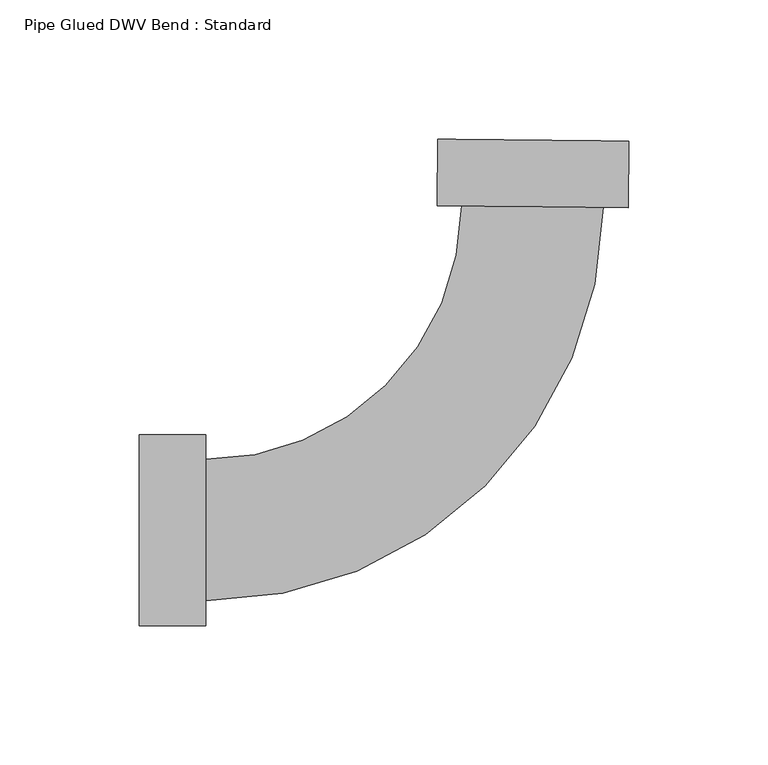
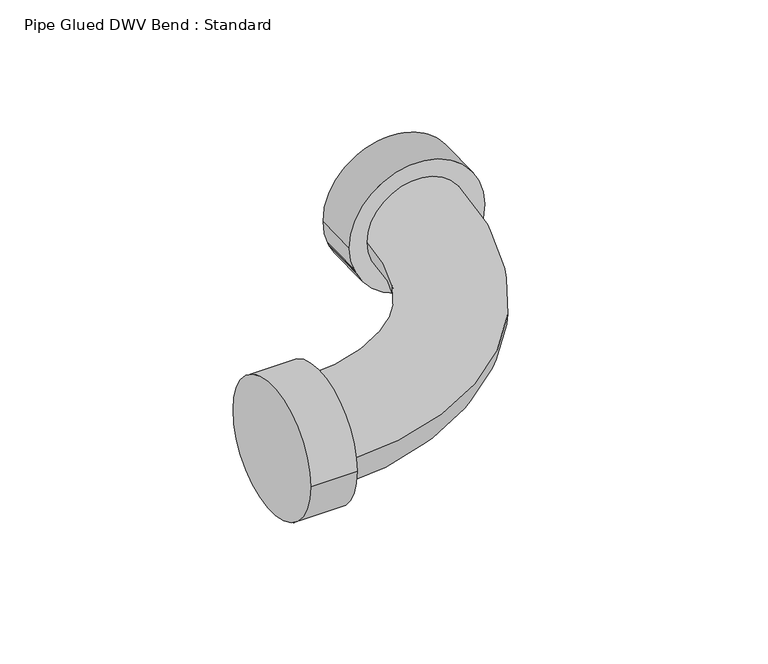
"""IFC4 building model written with IfcOpenShell, lengths in millimetres: pipe fitting geometry, Pipe Glued DWV Bend : Standard."""

from ifc_helpers import new_model, si_unit, point, frame, origin, origin_2d, place, context, project, spatial, circle_curve, ellipse_curve, trimmed, segment, composite_curve, outline, extrude, source, transform, mapped, element, save
from ifc_brep_helpers import plane_surface, cylinder_surface, revolved_surface, advanced_brep


def pipe_glued_dwv_bend_standard_c24f7a1e(model_context):
    return source(origin(), model_context, "Body", "SolidModel", [
        advanced_brep(
        [(-116.2623336, -25.4, 0.0), (-116.2623336, 25.4, 0.0), (26.604975, 115.9925236, 0.0), (-24.1922903, 116.5196263, 0.0)],
        [
            (0, 1, circle_curve(frame((-116.2623336, 0.0, 0.0), z_axis=(-1.0, 0.0, 0.0), x_axis=(0.0, 1.0, 0.0)), 25.4)),
            (1, 0, circle_curve(frame((-116.2623336, 0.0, 0.0), z_axis=(-1.0, 0.0, 0.0), x_axis=(0.0, 1.0, 0.0)), 25.4)),
            (2, 3, circle_curve(frame((1.2063424, 116.2560749, 0.0), z_axis=(0.010376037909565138, 0.9999461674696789, 0.0), x_axis=(-0.9999461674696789, 0.010376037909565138, 0.0)), 25.4)),
            (3, 2, circle_curve(frame((1.2063424, 116.2560749, 0.0), z_axis=(0.010376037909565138, 0.9999461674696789, 0.0), x_axis=(-0.9999461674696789, 0.010376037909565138, 0.0)), 25.4)),
            (3, 1, circle_curve(frame((-116.2623336, 117.475, 0.0), z_axis=(0.0, 0.0, -1.0), x_axis=(0.0, -1.0, 0.0)), 92.075)),
            (0, 2, circle_curve(frame((-116.2623336, 117.475, 0.0), z_axis=(0.0, 0.0, 1.0), x_axis=(0.0, -1.0, 0.0)), 142.875)),
        ],
        [
            plane_surface(frame((-116.2623336, 0.0, 0.0), z_axis=(-1.0, 0.0, 0.0), x_axis=(0.0, 0.0, 1.0))),
            plane_surface(frame((1.2063424, 116.2560749, 0.0), z_axis=(0.010376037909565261, 0.999946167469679, 0.0), x_axis=(0.0, 0.0, 1.0))),
            revolved_surface(trimmed(ellipse_curve(frame((-116.2623336, 0.0, 0.0), z_axis=(-1.0, 0.0, 0.0), x_axis=(0.0, 1.0, 0.0)), 25.4, 25.4), [point((-116.2623336, -25.4, 0.0))], [point((-116.2623336, 25.4, 0.0))], True, "CARTESIAN"), (-116.2623336, 117.475, 0.0), (0.0, 0.0, 1.0)),
            revolved_surface(trimmed(ellipse_curve(frame((-116.2623336, 0.0, 0.0), z_axis=(-1.0, 0.0, 0.0), x_axis=(0.0, 1.0, 0.0)), 25.4, 25.4), [point((-116.2623336, 25.4, 0.0))], [point((-116.2623336, -25.4, 0.0))], True, "CARTESIAN"), (-116.2623336, 117.475, 0.0), (0.0, 0.0, 1.0)),
        ],
        [
            (0, [[1, 2]]),
            (1, [[3, 4]]),
            (2, [[5, -1, 6, -4]]),
            (3, [[-6, -2, -5, -3]]),
        ],
    ),
        extrude(outline(composite_curve([segment(trimmed(circle_curve(origin_2d(), 34.3154), [point((-34.3154, 0.0))], [point((34.3154, 0.0))], False, "CARTESIAN"), True, "CONTINUOUS"), segment(trimmed(circle_curve(origin_2d(), 34.3154), [point((34.3154, 0.0))], [point((-34.3154, 0.0))], False, "CARTESIAN"), True, "CONTINUOUS")], self_intersect=False)), frame((-140.0748336, 0.0, 0.0), z_axis=(1.0, 0.0, 0.0), x_axis=(0.0, 1.0, 0.0)), (0.0, 0.0, 1.0), 23.8125),
        extrude(outline(composite_curve([segment(trimmed(circle_curve(origin_2d(), 34.3154), [point((0.0, -34.3154))], [point((0.0, 34.3154))], False, "CARTESIAN"), True, "CONTINUOUS"), segment(trimmed(circle_curve(origin_2d(), 34.3154), [point((0.0, 34.3154))], [point((0.0, -34.3154))], False, "CARTESIAN"), True, "CONTINUOUS")], self_intersect=False)), frame((1.2063424, 116.2560749, 0.0), z_axis=(0.010376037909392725, 0.9999461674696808, 0.0), x_axis=(0.0, 0.0, 1.0)), (0.0, 0.0, 1.0), 23.8125),
        advanced_brep(
        [(-140.0748336, -34.3154, 0.0), (-140.0748336, 34.3154, 0.0), (-116.2623336, -34.3154, 0.0), (-116.2623336, 34.3154, 0.0), (-116.2623336, -25.4, 0.0), (-116.2623336, 25.4, 0.0), (-24.1922903, 116.5196263, 0.0), (26.604975, 115.9925236, 0.0), (35.5198951, 115.9000171, 0.0), (-33.1072103, 116.6121328, 0.0), (35.7669745, 139.7112352, 0.0), (-32.8601309, 140.423351, 0.0)],
        [
            (0, 1, circle_curve(frame((-140.0748336, 0.0, 0.0), z_axis=(-1.0, 0.0, 0.0), x_axis=(0.0, 1.0, 0.0)), 34.3154)),
            (1, 0, circle_curve(frame((-140.0748336, 0.0, 0.0), z_axis=(-1.0, 0.0, 0.0), x_axis=(0.0, 1.0, 0.0)), 34.3154)),
            (2, 3, circle_curve(frame((-116.2623336, 0.0, 0.0), z_axis=(1.0, 0.0, 0.0), x_axis=(0.0, 1.0, 0.0)), 34.3154)),
            (3, 2, circle_curve(frame((-116.2623336, 0.0, 0.0), z_axis=(1.0, 0.0, 0.0), x_axis=(0.0, 1.0, 0.0)), 34.3154)),
            (4, 5, circle_curve(frame((-116.2623336, 0.0, 0.0), z_axis=(-1.0, 0.0, 0.0), x_axis=(0.0, 1.0, 0.0)), 25.4)),
            (5, 4, circle_curve(frame((-116.2623336, 0.0, 0.0), z_axis=(-1.0, 0.0, 0.0), x_axis=(0.0, 1.0, 0.0)), 25.4)),
            (0, 2),
            (3, 1),
            (6, 5, circle_curve(frame((-116.2623336, 117.475, 0.0), z_axis=(0.0, 0.0, -1.0), x_axis=(0.0, -1.0, 0.0)), 92.075)),
            (4, 7, circle_curve(frame((-116.2623336, 117.475, 0.0), z_axis=(0.0, 0.0, 1.0), x_axis=(0.0, -1.0, 0.0)), 142.875)),
            (7, 6, circle_curve(frame((1.2063424, 116.2560749, 0.0), z_axis=(-0.010376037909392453, -0.9999461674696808, 0.0), x_axis=(-0.9999461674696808, 0.010376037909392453, 0.0)), 25.4)),
            (6, 7, circle_curve(frame((1.2063424, 116.2560749, 0.0), z_axis=(-0.010376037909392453, -0.9999461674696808, 0.0), x_axis=(-0.9999461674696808, 0.010376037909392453, 0.0)), 25.4)),
            (8, 9, circle_curve(frame((1.2063424, 116.2560749, 0.0), z_axis=(-0.010376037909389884, -0.9999461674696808, 0.0), x_axis=(-0.9999461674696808, 0.010376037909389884, 0.0)), 34.3154)),
            (9, 8, circle_curve(frame((1.2063424, 116.2560749, 0.0), z_axis=(-0.010376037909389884, -0.9999461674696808, 0.0), x_axis=(-0.9999461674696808, 0.010376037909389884, 0.0)), 34.3154)),
            (10, 11, circle_curve(frame((1.4534218, 140.0672931, 0.0), z_axis=(0.010376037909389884, 0.9999461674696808, 0.0), x_axis=(-0.9999461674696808, 0.010376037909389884, 0.0)), 34.3154)),
            (11, 10, circle_curve(frame((1.4534218, 140.0672931, 0.0), z_axis=(0.010376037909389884, 0.9999461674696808, 0.0), x_axis=(-0.9999461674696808, 0.010376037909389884, 0.0)), 34.3154)),
            (8, 10),
            (11, 9),
        ],
        [
            plane_surface(frame((-140.0748336, 0.0, 0.0), z_axis=(-1.0, 0.0, 0.0), x_axis=(0.0, 0.0, 1.0))),
            plane_surface(frame((-116.2623336, 0.0, 0.0), z_axis=(1.0, 0.0, 0.0), x_axis=(0.0, 0.0, 1.0))),
            cylinder_surface(frame((-140.0748336, 0.0, 0.0), z_axis=(-1.0, 0.0, 0.0), x_axis=(0.0, 1.0, 0.0)), 34.3154),
            revolved_surface(trimmed(ellipse_curve(frame((-116.2623336, 0.0, 0.0), z_axis=(-1.0, 0.0, 0.0), x_axis=(0.0, 1.0, 0.0)), 25.4, 25.4), [point((-116.2623336, -25.4, 0.0))], [point((-116.2623336, 25.4, 0.0))], True, "CARTESIAN"), (-116.2623336, 117.475, 0.0), (0.0, 0.0, 1.0)),
            revolved_surface(trimmed(ellipse_curve(frame((-116.2623336, 0.0, 0.0), z_axis=(-1.0, 0.0, 0.0), x_axis=(0.0, 1.0, 0.0)), 25.4, 25.4), [point((-116.2623336, 25.4, 0.0))], [point((-116.2623336, -25.4, 0.0))], True, "CARTESIAN"), (-116.2623336, 117.475, 0.0), (0.0, 0.0, 1.0)),
            plane_surface(frame((1.2063424, 116.2560749, 0.0), z_axis=(-0.010376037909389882, -0.9999461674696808, 0.0), x_axis=(0.0, 0.0, 1.0))),
            plane_surface(frame((1.4534218, 140.0672931, 0.0), z_axis=(0.010376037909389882, 0.9999461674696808, 0.0), x_axis=(0.0, 0.0, 1.0))),
            cylinder_surface(frame((1.2063424, 116.2560749, 0.0), z_axis=(-0.010376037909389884, -0.9999461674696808, 0.0), x_axis=(-0.9999461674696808, 0.010376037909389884, 0.0)), 34.3154),
        ],
        [
            (0, [[1, 2]]),
            (1, [[3, 4], [5, 6]]),
            (2, [[-1, 7, -4, 8]]),
            (2, [[-2, -8, -3, -7]]),
            (3, [[9, -5, 10, 11]]),
            (4, [[-9, 12, -10, -6]]),
            (5, [[13, 14], [-11, -12]]),
            (6, [[15, 16]]),
            (7, [[-13, 17, -16, 18]]),
            (7, [[-14, -18, -15, -17]]),
        ],
    ),
    ])


if __name__ == "__main__":
    model = new_model("IFC4")
    model_context = context("Model", 3, world=origin())
    ifc_project = project(units=[si_unit("LENGTHUNIT", "METRE", prefix="MILLI")], contexts=[model_context])
    site = spatial("IfcSite", under=ifc_project)
    building = spatial("IfcBuilding", under=site)
    placement = place(None, origin())
    pipe_glued_dwv_bend_standard_shape = pipe_glued_dwv_bend_standard_c24f7a1e(model_context)
    element("IfcPipeFitting", 1, ObjectType="Pipe Glued DWV Bend : Standard", at=placement, inside=building, context=model_context, shape_type="MappedRepresentation", body=[
        mapped(pipe_glued_dwv_bend_standard_shape, transform((0.0, 0.0, 0.0), x_axis=(1.0, 0.0, 0.0), y_axis=(0.0, 1.0, 0.0), z_axis=(0.0, 0.0, 1.0))),
    ])
    save(model, "model.ifc")
